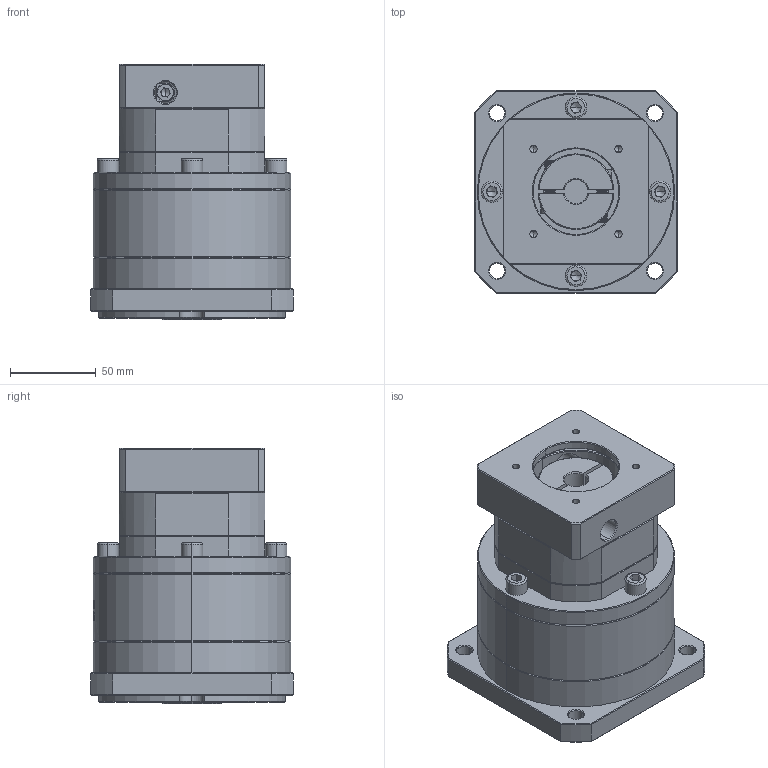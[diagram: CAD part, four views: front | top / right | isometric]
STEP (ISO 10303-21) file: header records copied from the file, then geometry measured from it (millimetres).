
FILE_DESCRIPTION (( 'STEP AP214' ), '1' );
FILE_NAME ('ZF120A-K25-L2-P2-14-50-70-M5.step', '2023-08-27T06:01:33', ( '' ), ( '' ), 'SwSTEP 2.0', 'SolidWorks 2016', '' );
FILE_SCHEMA (( 'AUTOMOTIVE_DESIGN' ));
Length unit declared in the file: millimetre
Products named in the file (1): ZF120A-K25-L2-P2-14-50-70-M5
Bounding box: 118 x 118 x 149 mm (x, y, z)
Volume: 1248367.9 mm3; surface area: 125586 mm2
Topology: 5 solids, 6 shells, 2017 faces, 5330 edges, 3413 vertices
Faces by surface type: plane 1046, bspline 398, cone 307, cylinder 251, torus 15
Entity records: 100870 total; most frequent: CARTESIAN_POINT 33169, ORIENTED_EDGE 10604, DIRECTION 7827, EDGE_CURVE 5302, VERTEX_POINT 3413, LINE 2893, VECTOR 2893, AXIS2_PLACEMENT_3D 2467
